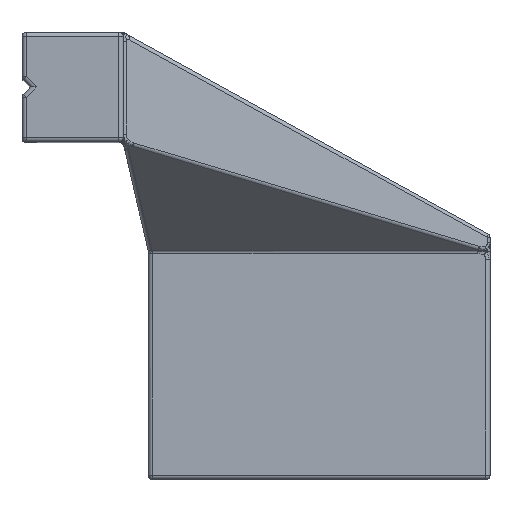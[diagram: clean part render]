
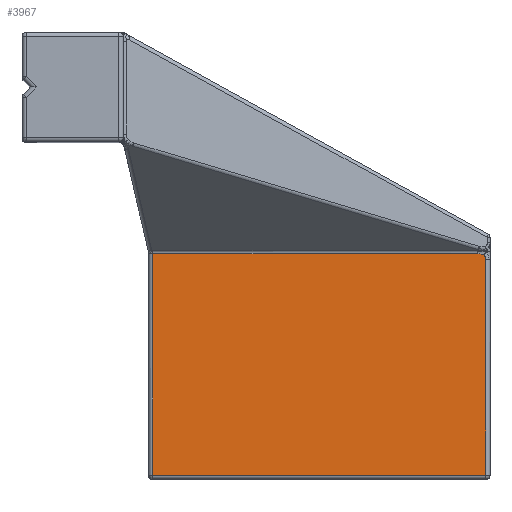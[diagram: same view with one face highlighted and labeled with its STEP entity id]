
A CAD part, top view. The second image highlights one B-rep face of the part: STEP entity #3967.
In plain terms, the highlighted planar face has unit normal (0, 0, 1).
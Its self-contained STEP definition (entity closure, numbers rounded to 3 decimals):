
#67=PLANE('',#4398);
#275=LINE('',#11818,#487);
#277=LINE('',#11878,#489);
#287=LINE('',#11923,#499);
#301=LINE('',#12116,#513);
#487=VECTOR('',#5167,10.);
#489=VECTOR('',#5175,10.);
#499=VECTOR('',#5229,10.);
#513=VECTOR('',#5307,10.);
#871=FACE_OUTER_BOUND('',#1115,.T.);
#1115=EDGE_LOOP('',(#3353,#3354,#3355,#3356,#3357,#3358));
#1359=B_SPLINE_CURVE_WITH_KNOTS('',3,(#6243,#6244,#6245,#6246,#6247,#6248,
#6249,#6250,#6251,#6252,#6253,#6254,#6255,#6256,#6257,#6258,#6259,#6260,
#6261,#6262,#6263,#6264,#6265,#6266,#6267,#6268,#6269,#6270,#6271,#6272,
#6273,#6274,#6275,#6276,#6277,#6278,#6279,#6280,#6281,#6282,#6283,#6284,
#6285),.UNSPECIFIED.,.F.,.F.,(4,3,3,3,3,3,3,3,3,3,3,3,3,3,4),(0.5,
0.533,0.563,0.593,0.623,
0.657,0.702,0.739,0.772,
0.801,0.842,0.888,0.93,
0.967,1.),.UNSPECIFIED.);
#1361=B_SPLINE_CURVE_WITH_KNOTS('',3,(#6339,#6340,#6341,#6342,#6343,#6344,
#6345,#6346,#6347,#6348,#6349,#6350,#6351,#6352,#6353,#6354,#6355,#6356,
#6357,#6358,#6359,#6360,#6361,#6362,#6363,#6364,#6365,#6366,#6367,#6368,
#6369,#6370,#6371,#6372,#6373,#6374,#6375,#6376,#6377,#6378,#6379,#6380,
#6381,#6382,#6383,#6384),.UNSPECIFIED.,.F.,.F.,(4,3,3,3,3,3,3,3,3,3,3,3,
3,3,3,4),(0.,0.025,0.05,0.078,0.108,
0.142,0.192,0.228,0.259,
0.287,0.317,0.348,0.382,
0.421,0.471,0.5),.UNSPECIFIED.);
#1468=VERTEX_POINT('',#6235);
#1469=VERTEX_POINT('',#6242);
#1471=VERTEX_POINT('',#6337);
#1710=VERTEX_POINT('',#11700);
#1728=VERTEX_POINT('',#11809);
#1743=VERTEX_POINT('',#11921);
#1789=EDGE_CURVE('',#1468,#1469,#1359,.T.);
#1793=EDGE_CURVE('',#1471,#1468,#1361,.T.);
#2213=EDGE_CURVE('',#1710,#1728,#275,.T.);
#2217=EDGE_CURVE('',#1469,#1710,#277,.T.);
#2240=EDGE_CURVE('',#1743,#1471,#287,.T.);
#2275=EDGE_CURVE('',#1728,#1743,#301,.T.);
#3353=ORIENTED_EDGE('',*,*,#1793,.F.);
#3354=ORIENTED_EDGE('',*,*,#2240,.F.);
#3355=ORIENTED_EDGE('',*,*,#2275,.F.);
#3356=ORIENTED_EDGE('',*,*,#2213,.F.);
#3357=ORIENTED_EDGE('',*,*,#2217,.F.);
#3358=ORIENTED_EDGE('',*,*,#1789,.F.);
#3967=ADVANCED_FACE('',(#871),#67,.T.);
#4398=AXIS2_PLACEMENT_3D('',#12272,#5425,#5426);
#5167=DIRECTION('',(-1.,0.,0.));
#5175=DIRECTION('',(0.,-1.,0.));
#5229=DIRECTION('',(1.,0.,0.));
#5307=DIRECTION('',(0.,1.,0.));
#5425=DIRECTION('center_axis',(0.,0.,1.));
#5426=DIRECTION('ref_axis',(1.,0.,0.));
#6235=CARTESIAN_POINT('',(54.729,9.615,15.));
#6242=CARTESIAN_POINT('',(55.,9.101,15.));
#6243=CARTESIAN_POINT('Ctrl Pts',(54.729,9.615,15.));
#6244=CARTESIAN_POINT('Ctrl Pts',(54.743,9.607,15.));
#6245=CARTESIAN_POINT('Ctrl Pts',(54.756,9.599,15.));
#6246=CARTESIAN_POINT('Ctrl Pts',(54.769,9.59,15.));
#6247=CARTESIAN_POINT('Ctrl Pts',(54.78,9.582,15.));
#6248=CARTESIAN_POINT('Ctrl Pts',(54.792,9.574,15.));
#6249=CARTESIAN_POINT('Ctrl Pts',(54.803,9.565,15.));
#6250=CARTESIAN_POINT('Ctrl Pts',(54.813,9.557,15.));
#6251=CARTESIAN_POINT('Ctrl Pts',(54.824,9.548,15.));
#6252=CARTESIAN_POINT('Ctrl Pts',(54.833,9.54,15.));
#6253=CARTESIAN_POINT('Ctrl Pts',(54.843,9.531,15.));
#6254=CARTESIAN_POINT('Ctrl Pts',(54.853,9.522,15.));
#6255=CARTESIAN_POINT('Ctrl Pts',(54.862,9.512,15.));
#6256=CARTESIAN_POINT('Ctrl Pts',(54.872,9.502,15.));
#6257=CARTESIAN_POINT('Ctrl Pts',(54.882,9.491,15.));
#6258=CARTESIAN_POINT('Ctrl Pts',(54.891,9.48,15.));
#6259=CARTESIAN_POINT('Ctrl Pts',(54.903,9.465,15.));
#6260=CARTESIAN_POINT('Ctrl Pts',(54.914,9.45,15.));
#6261=CARTESIAN_POINT('Ctrl Pts',(54.924,9.435,15.));
#6262=CARTESIAN_POINT('Ctrl Pts',(54.932,9.422,15.));
#6263=CARTESIAN_POINT('Ctrl Pts',(54.94,9.409,15.));
#6264=CARTESIAN_POINT('Ctrl Pts',(54.947,9.396,15.));
#6265=CARTESIAN_POINT('Ctrl Pts',(54.953,9.384,15.));
#6266=CARTESIAN_POINT('Ctrl Pts',(54.958,9.372,15.));
#6267=CARTESIAN_POINT('Ctrl Pts',(54.963,9.361,15.));
#6268=CARTESIAN_POINT('Ctrl Pts',(54.967,9.35,15.));
#6269=CARTESIAN_POINT('Ctrl Pts',(54.971,9.339,15.));
#6270=CARTESIAN_POINT('Ctrl Pts',(54.975,9.329,15.));
#6271=CARTESIAN_POINT('Ctrl Pts',(54.979,9.314,15.));
#6272=CARTESIAN_POINT('Ctrl Pts',(54.983,9.298,15.));
#6273=CARTESIAN_POINT('Ctrl Pts',(54.987,9.283,15.));
#6274=CARTESIAN_POINT('Ctrl Pts',(54.99,9.266,15.));
#6275=CARTESIAN_POINT('Ctrl Pts',(54.993,9.249,15.));
#6276=CARTESIAN_POINT('Ctrl Pts',(54.995,9.231,15.));
#6277=CARTESIAN_POINT('Ctrl Pts',(54.997,9.215,15.));
#6278=CARTESIAN_POINT('Ctrl Pts',(54.998,9.199,15.));
#6279=CARTESIAN_POINT('Ctrl Pts',(54.999,9.183,15.));
#6280=CARTESIAN_POINT('Ctrl Pts',(54.999,9.169,15.));
#6281=CARTESIAN_POINT('Ctrl Pts',(55.,9.155,15.));
#6282=CARTESIAN_POINT('Ctrl Pts',(55.,9.14,15.));
#6283=CARTESIAN_POINT('Ctrl Pts',(55.,9.127,15.));
#6284=CARTESIAN_POINT('Ctrl Pts',(55.,9.114,15.));
#6285=CARTESIAN_POINT('Ctrl Pts',(55.,9.101,15.));
#6337=CARTESIAN_POINT('',(54.037,9.772,15.));
#6339=CARTESIAN_POINT('Ctrl Pts',(54.037,9.772,15.));
#6340=CARTESIAN_POINT('Ctrl Pts',(54.047,9.772,15.));
#6341=CARTESIAN_POINT('Ctrl Pts',(54.057,9.772,15.));
#6342=CARTESIAN_POINT('Ctrl Pts',(54.066,9.772,15.));
#6343=CARTESIAN_POINT('Ctrl Pts',(54.077,9.772,15.));
#6344=CARTESIAN_POINT('Ctrl Pts',(54.087,9.772,15.));
#6345=CARTESIAN_POINT('Ctrl Pts',(54.097,9.771,15.));
#6346=CARTESIAN_POINT('Ctrl Pts',(54.109,9.771,15.));
#6347=CARTESIAN_POINT('Ctrl Pts',(54.121,9.771,15.));
#6348=CARTESIAN_POINT('Ctrl Pts',(54.133,9.771,15.));
#6349=CARTESIAN_POINT('Ctrl Pts',(54.146,9.77,15.));
#6350=CARTESIAN_POINT('Ctrl Pts',(54.159,9.77,15.));
#6351=CARTESIAN_POINT('Ctrl Pts',(54.173,9.769,15.));
#6352=CARTESIAN_POINT('Ctrl Pts',(54.188,9.768,15.));
#6353=CARTESIAN_POINT('Ctrl Pts',(54.204,9.767,15.));
#6354=CARTESIAN_POINT('Ctrl Pts',(54.22,9.766,15.));
#6355=CARTESIAN_POINT('Ctrl Pts',(54.243,9.764,15.));
#6356=CARTESIAN_POINT('Ctrl Pts',(54.267,9.762,15.));
#6357=CARTESIAN_POINT('Ctrl Pts',(54.291,9.759,15.));
#6358=CARTESIAN_POINT('Ctrl Pts',(54.309,9.757,15.));
#6359=CARTESIAN_POINT('Ctrl Pts',(54.327,9.754,15.));
#6360=CARTESIAN_POINT('Ctrl Pts',(54.345,9.751,15.));
#6361=CARTESIAN_POINT('Ctrl Pts',(54.36,9.749,15.));
#6362=CARTESIAN_POINT('Ctrl Pts',(54.375,9.746,15.));
#6363=CARTESIAN_POINT('Ctrl Pts',(54.39,9.743,15.));
#6364=CARTESIAN_POINT('Ctrl Pts',(54.404,9.74,15.));
#6365=CARTESIAN_POINT('Ctrl Pts',(54.417,9.738,15.));
#6366=CARTESIAN_POINT('Ctrl Pts',(54.431,9.734,15.));
#6367=CARTESIAN_POINT('Ctrl Pts',(54.446,9.731,15.));
#6368=CARTESIAN_POINT('Ctrl Pts',(54.461,9.727,15.));
#6369=CARTESIAN_POINT('Ctrl Pts',(54.475,9.723,15.));
#6370=CARTESIAN_POINT('Ctrl Pts',(54.49,9.719,15.));
#6371=CARTESIAN_POINT('Ctrl Pts',(54.505,9.714,15.));
#6372=CARTESIAN_POINT('Ctrl Pts',(54.52,9.709,15.));
#6373=CARTESIAN_POINT('Ctrl Pts',(54.536,9.704,15.));
#6374=CARTESIAN_POINT('Ctrl Pts',(54.552,9.699,15.));
#6375=CARTESIAN_POINT('Ctrl Pts',(54.568,9.692,15.));
#6376=CARTESIAN_POINT('Ctrl Pts',(54.586,9.686,15.));
#6377=CARTESIAN_POINT('Ctrl Pts',(54.605,9.678,15.));
#6378=CARTESIAN_POINT('Ctrl Pts',(54.623,9.67,15.));
#6379=CARTESIAN_POINT('Ctrl Pts',(54.647,9.659,15.));
#6380=CARTESIAN_POINT('Ctrl Pts',(54.67,9.648,15.));
#6381=CARTESIAN_POINT('Ctrl Pts',(54.692,9.636,15.));
#6382=CARTESIAN_POINT('Ctrl Pts',(54.705,9.629,15.));
#6383=CARTESIAN_POINT('Ctrl Pts',(54.717,9.622,15.));
#6384=CARTESIAN_POINT('Ctrl Pts',(54.729,9.615,15.));
#11700=CARTESIAN_POINT('',(55.,-16.5,15.));
#11809=CARTESIAN_POINT('',(15.5,-16.5,15.));
#11818=CARTESIAN_POINT('',(25.125,-16.5,15.));
#11878=CARTESIAN_POINT('',(55.,-9.75,15.));
#11921=CARTESIAN_POINT('',(15.5,9.772,15.));
#11923=CARTESIAN_POINT('',(45.375,9.772,15.));
#12116=CARTESIAN_POINT('',(15.5,4.75,15.));
#12272=CARTESIAN_POINT('Origin',(35.25,-2.5,15.));
